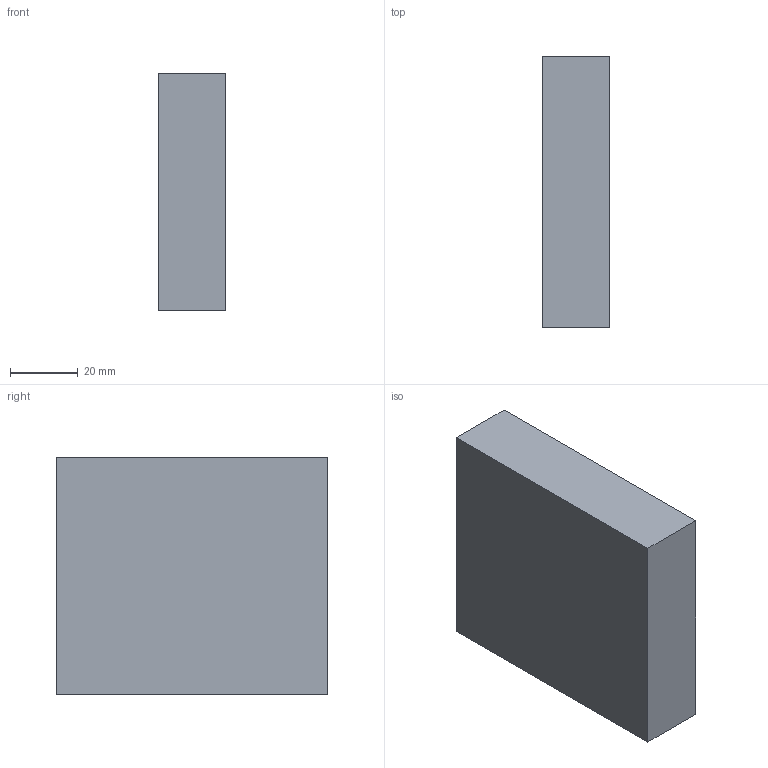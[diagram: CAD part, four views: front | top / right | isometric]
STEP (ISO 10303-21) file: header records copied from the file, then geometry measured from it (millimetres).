
FILE_DESCRIPTION(/* description */ (''),/* implementation_level */ '2;1');
FILE_NAME(/* name */ '5.y-cart#5.1#HFS5-2080-70-LTP',/* time_stamp */ '2014-12-01T20:13:13+01:00',/* author */ (''),/* organization */ (''),/* preprocessor_version */ 'ST-DEVELOPER v14',/* originating_system */ '',/* authorisation */ '');
FILE_SCHEMA (('AUTOMOTIVE_DESIGN'));
Length unit declared in the file: millimetre
Products named in the file (1): Document
Bounding box: 20 x 80 x 70 mm (x, y, z)
Volume: 112000 mm3; surface area: 17200 mm2
Topology: 1 solids, 1 shells, 6 faces, 12 edges, 8 vertices
Faces by surface type: plane 6
Entity records: 298 total; most frequent: CARTESIAN_POINT 88, B_SPLINE_CURVE_WITH_KNOTS 36, ORIENTED_EDGE 24, PCURVE 24, DEFINITIONAL_REPRESENTATION 24, SURFACE_CURVE 12, EDGE_CURVE 12, DIRECTION 10
